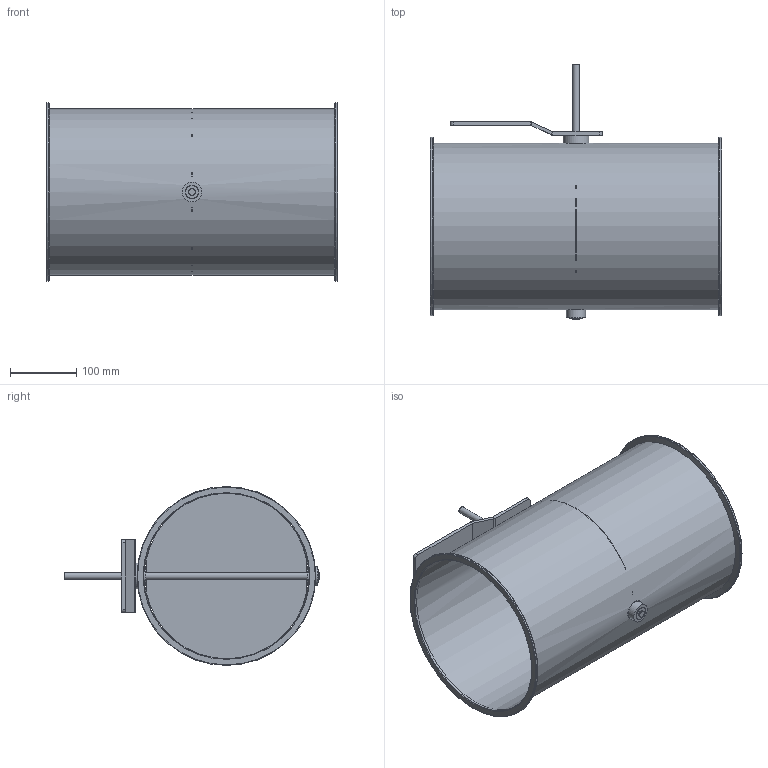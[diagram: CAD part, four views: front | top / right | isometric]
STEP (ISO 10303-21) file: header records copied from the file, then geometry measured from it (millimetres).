
FILE_DESCRIPTION(/* description */ (''),/* implementation_level */ '2;1');
FILE_NAME(/* name */ 'EA103-80B__250_L440_Belimo_Typen_NF_SF.stp',/* time_stamp */ '2017-12-06T14:55:25+01:00',/* author */ (''),/* organization */ (''),/* preprocessor_version */ 'ST-DEVELOPER v11',/* originating_system */ 'SIEMENS UGS NX 6.0',/* authorisation */ '');
FILE_SCHEMA (('CONFIG_CONTROL_DESIGN'));
Length unit declared in the file: millimetre
Products named in the file (1): gars18E2j29z
Bounding box: 440 x 386 x 270 mm (x, y, z)
Volume: 577315.8 mm3; surface area: 897711.9 mm2
Topology: 8 solids, 8 shells, 76 faces, 158 edges, 100 vertices
Faces by surface type: plane 36, cylinder 32, torus 6, cone 2
Full cylindrical faces by diameter (mm): 4.1 x4, 10 x3, 19 x3, 19.85 x2, 20 x2, 29 x1, 30 x2, 39 x1, 250 x1, 251.6 x1, 270 x2
Entity records: 1960 total; most frequent: CARTESIAN_POINT 353, DIRECTION 334, ORIENTED_EDGE 236, AXIS2_PLACEMENT_3D 143, EDGE_LOOP 132, EDGE_CURVE 118, FACE_BOUND 102, VERTEX_POINT 90
